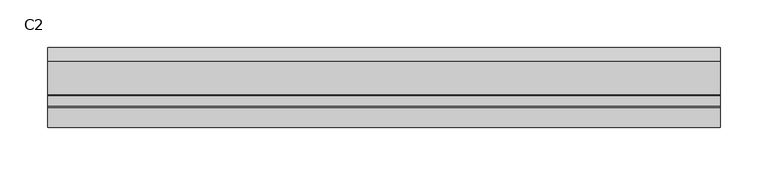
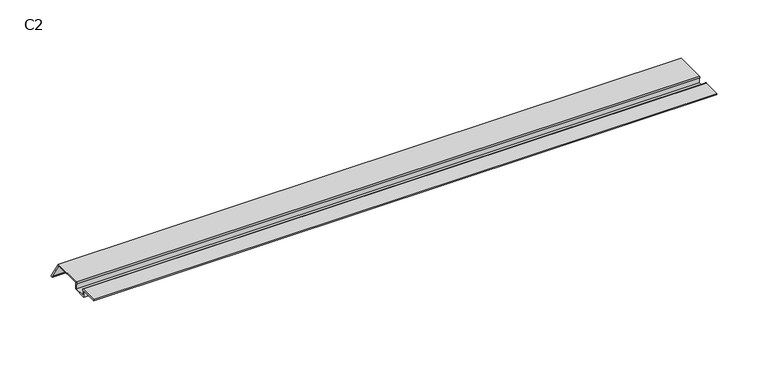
"""IFC4 building model written with IfcOpenShell, lengths in millimetres: proxy geometry, C2 profil cokolowy : C2."""

from ifc_helpers import new_model, si_unit, point, frame, frame_2d, origin, place, context, project, spatial, polyline, circle_curve, trimmed, segment, composite_curve, outline, extrude, source, transform, mapped, element, save


def c2_5aa5cb82(model_context):
    return source(origin(), model_context, "Body", "SweptSolid", [
        extrude(outline(composite_curve([segment(polyline([(-62.6, 22.4417007), (-62.6, 16.8000012), (-49.2, 16.8000012), (-49.2, 22.4417007)]), True, "CONTINUOUS"), segment(trimmed(circle_curve(frame_2d((-48.9, 23.5000012)), 1.1), [point((-49.2, 22.4417007))], [point((-48.9, 24.6000012))], False, "CARTESIAN"), True, "CONTINUOUS"), segment(polyline([(-48.9, 24.6000012), (-14.2215416, 24.6000012), (0.0, 2.6407585), (0.0, 1.8218762), (-2.4884184, 1.8218762), (-2.4884184, 2.700191), (-1.6694319, 2.700191), (-14.9821643, 23.2000012), (-47.8, 23.2000012), (-47.8, 15.4000012), (-64.0, 15.4000012), (-64.0, 23.2000012), (-83.4, 23.2000012), (-83.4, 24.6000012), (-62.9, 24.6000012)]), True, "CONTINUOUS"), segment(trimmed(circle_curve(frame_2d((-62.9, 23.5000012)), 1.1), [point((-62.9, 24.6000012))], [point((-62.6, 22.4417007))], False, "CARTESIAN"), True, "CONTINUOUS")], self_intersect=False)), frame((0.0, 0.0, 0.0), z_axis=(1.0, 0.0, 0.0), x_axis=(0.0, 1.0, 0.0)), (0.0, 0.0, 1.0), 703.0),
    ])


if __name__ == "__main__":
    model = new_model("IFC4")
    model_context = context("Model", 3, world=origin())
    ifc_project = project(units=[si_unit("LENGTHUNIT", "METRE", prefix="MILLI")], contexts=[model_context])
    site = spatial("IfcSite", under=ifc_project)
    building = spatial("IfcBuilding", under=site)
    placement = place(None, origin())
    c2_shape = c2_5aa5cb82(model_context)
    element("IfcBuildingElementProxy", 1, Name="C2 profil cokolowy : C2", ObjectType="C2 profil cokolowy : C2", at=placement, inside=building, context=model_context, shape_type="MappedRepresentation", body=[
        mapped(c2_shape, transform((0.0, 0.0, 0.0), x_axis=(1.0, 0.0, 0.0), y_axis=(0.0, 1.0, 0.0), z_axis=(0.0, 0.0, 1.0))),
    ])
    save(model, "model.ifc")
